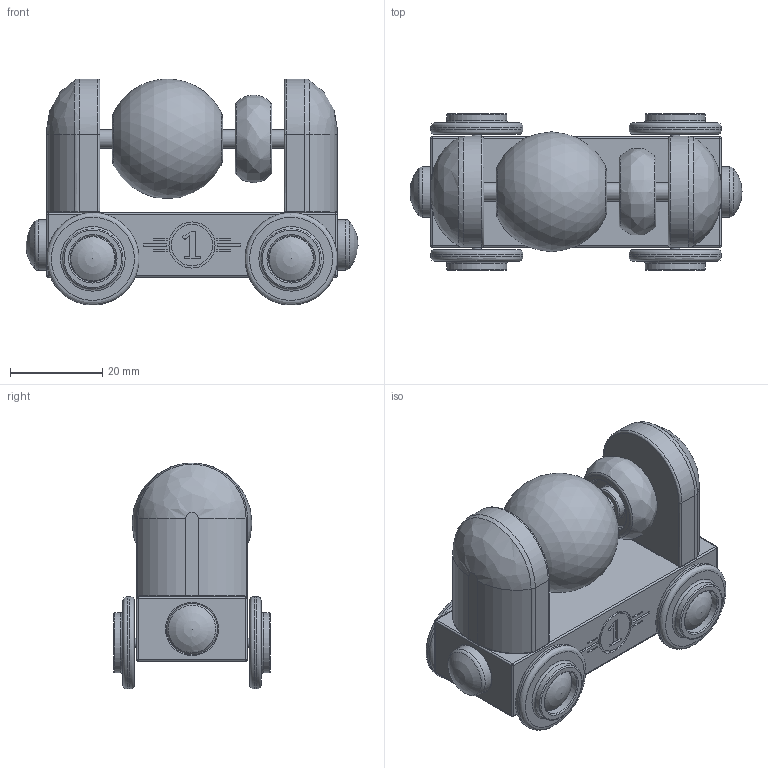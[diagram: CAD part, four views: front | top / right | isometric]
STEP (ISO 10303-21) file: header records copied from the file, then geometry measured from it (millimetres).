
FILE_DESCRIPTION( ( '' ), ' ' );
FILE_NAME( '/vol/tmp/translate-8988560646273034729/58415cbec1ad3a10bad08032.step', '2016-12-02T11:36:31', ( '' ), ( '' ), ' ', ' ', ' ' );
FILE_SCHEMA( ( 'AUTOMOTIVE_DESIGN { 1 0 10303 214 1 1 1 1 }' ) );
Length unit declared in the file: metre
Products named in the file (17): Wheel <2>; Wheel_WhiteTranslucent; Hubcap_ShinyChrome; Wheel <1>; Wheels on axle <1>; Axle_ShinyChrome; Wheels on axle <2>; Assem1; Base_BlackWood; Holder_LimeGreen; Holder - mirror_LimeGreen; Spinner - large_DarkGreen; Spinner - small_DeepOrange; Coupling_LightOrange
Assembly tree (24 placements, depth 4):
  Assem1
    Base_BlackWood
    Holder_LimeGreen
    Holder - mirror_LimeGreen
    Axle_ShinyChrome
    Spinner - large_DarkGreen
    Spinner - small_DeepOrange
    Coupling_LightOrange  x2
    Wheels on axle <1>
      Axle_ShinyChrome
      Wheel <1>
        Wheel_WhiteTranslucent
        Hubcap_ShinyChrome
      Wheel <2>
        Wheel_WhiteTranslucent
        Hubcap_ShinyChrome
    Wheels on axle <2>
      Axle_ShinyChrome
      Wheel <1>
        Wheel_WhiteTranslucent
        Hubcap_ShinyChrome
      Wheel <2>
        Wheel_WhiteTranslucent
        Hubcap_ShinyChrome
Bounding box: 72 x 34 x 49 mm (x, y, z)
Volume: 48433.6 mm3; surface area: 19833.3 mm2
Topology: 18 solids, 18 shells, 335 faces, 727 edges, 448 vertices
Faces by surface type: plane 140, cylinder 67, extrusion 40, bspline 37, torus 36, sphere 15
Full cylindrical faces by diameter (mm): 2 x8, 4 x3, 4.5 x2, 7.5 x2, 9 x2, 10 x10, 11 x4, 12 x2, 13 x4, 20 x4
Entity records: 12032 total; most frequent: CARTESIAN_POINT 3915, ORIENTED_EDGE 1102, DIRECTION 1016, EDGE_CURVE 551, VERTEX_POINT 377, EDGE_LOOP 368, AXIS2_PLACEMENT_3D 345, FACE_OUTER_BOUND 330
